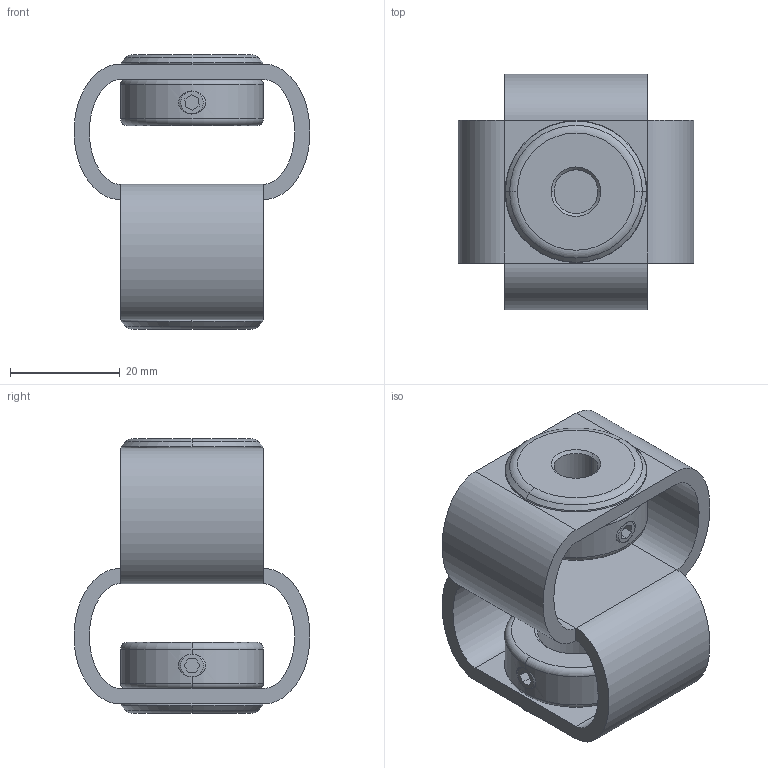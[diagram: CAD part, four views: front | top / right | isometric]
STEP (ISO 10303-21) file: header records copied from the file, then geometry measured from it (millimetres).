
FILE_DESCRIPTION (( 'STEP AP203' ), '1' );
FILE_NAME ('SFC-48-8X14_203.STEP', '2013-06-02T09:52:10', ( 'Z77' ), ( '' ), 'SwSTEP 2.0', 'SolidWorks 2012', '' );
FILE_SCHEMA (( 'CONFIG_CONTROL_DESIGN' ));
Length unit declared in the file: millimetre
Products named in the file (1): SFC-48-8X14_203
Bounding box: 42.95 x 42.95 x 50 mm (x, y, z)
Volume: 21683.3 mm3; surface area: 13300.5 mm2
Topology: 1 solids, 1 shells, 134 faces, 328 edges, 196 vertices
Faces by surface type: plane 46, cone 36, cylinder 28, torus 16, bspline 8
Entity records: 5045 total; most frequent: CARTESIAN_POINT 1889, ORIENTED_EDGE 640, DIRECTION 634, EDGE_CURVE 320, AXIS2_PLACEMENT_3D 237, VERTEX_POINT 196, LINE 160, VECTOR 160
